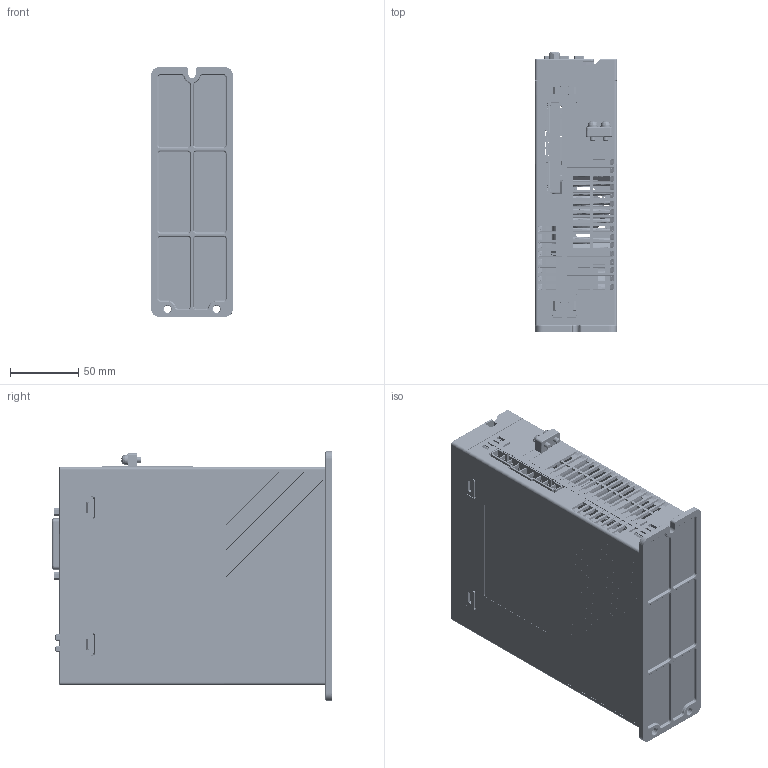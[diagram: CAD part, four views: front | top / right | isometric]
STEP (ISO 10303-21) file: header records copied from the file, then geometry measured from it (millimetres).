
FILE_DESCRIPTION((''),'2;1');
FILE_NAME('DS3P-15BS_SW0001','2026-01-21T18:29:51',('wuyh130'),(''),'CREO PARAMETRIC BY PTC INC, 2021063','CREO PARAMETRIC BY PTC INC, 2021063','');
FILE_SCHEMA(('AUTOMOTIVE_DESIGN { 1 0 10303 214 1 1 1 1 }'));
Products named in the file (1): DS3P-15BS_SW0001
Bounding box: 60 x 205.46 x 183 mm (x, y, z)
Surface area: 369354.3 mm2 (no closed solid volume)
Topology: 0 solids, 261 shells, 7532 faces, 25066 edges, 17316 vertices
Faces by surface type: plane 3800, cylinder 2212, bspline 673, cone 393, torus 333, sphere 75, extrusion 42, revolution 4
Entity records: 347238 total; most frequent: CARTESIAN_POINT 113436, ORIENTED_EDGE 42219, DIRECTION 39492, EDGE_CURVE 24991, VERTEX_POINT 17315, VECTOR 16665, LINE 16623, AXIS2_PLACEMENT_3D 11410
